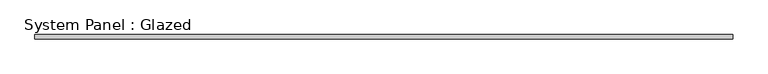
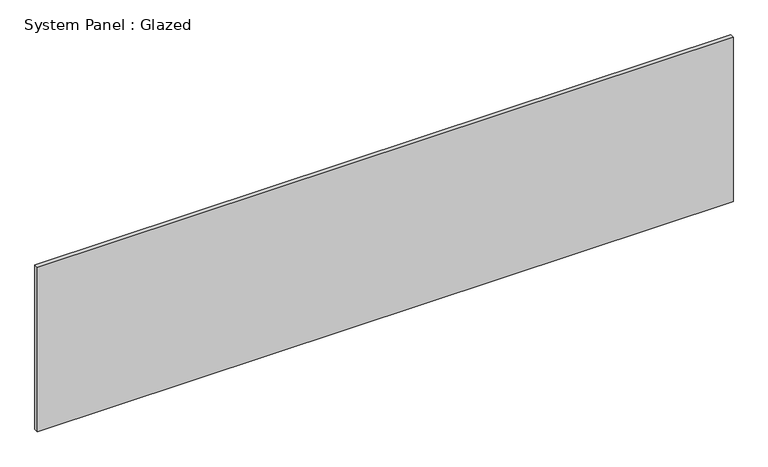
"""IFC4 building model written with IfcOpenShell, lengths in millimetres: plate geometry, System Panel : Glazed."""

import ifcopenshell
import ifcopenshell.guid

model = None  # the IFC model being written
_history = None  # IfcOwnerHistory: only IFC2X3 demands one
_inside = {}  # id of a spatial element -> (the spatial element, [elements in it])
_under = {}  # id of a project, library or spatial element -> (it, [spatial elements below it])
_declared = {}  # id of a project -> (the project, [libraries it declares])
_typed = {}  # id of a type object -> (the type object, [elements of that type])
_made_of = {}  # id of a material, layer set ... -> (it, [elements and type objects made of it])


def new_model(schema):
    """Start an empty IFC model of exactly this schema.

    Asked for "IFC4X3", IfcOpenShell would pick the latest addendum, in which some entities
    have other attributes; the version numbers below select the first issue.
    IFC2X3 requires an IfcOwnerHistory on every rooted entity: one is made here for all.
    """
    global model, _history
    if schema == "IFC4X3":
        model = ifcopenshell.file(schema_version=(4, 3, 0, 0))
    else:
        model = ifcopenshell.file(schema=schema)
    _inside.clear()
    _under.clear()
    _declared.clear()
    _typed.clear()
    _made_of.clear()
    _history = None
    if model.schema == "IFC2X3":
        org = make("IfcOrganization", Name="unknown")
        user = make(
            "IfcPersonAndOrganization",
            ThePerson=make("IfcPerson", FamilyName="unknown"),
            TheOrganization=org,
        )
        app = make(
            "IfcApplication",
            ApplicationDeveloper=org,
            Version="unknown",
            ApplicationFullName="unknown",
            ApplicationIdentifier="unknown",
        )
        _history = make(
            "IfcOwnerHistory",
            OwningUser=user,
            OwningApplication=app,
            ChangeAction="ADDED",
            CreationDate=0,
        )
    return model


def make(cls, **values):
    """One entity of the class cls with the attributes given. An attribute that is None is left unset."""
    return model.create_entity(
        cls, **{name: value for name, value in values.items() if value is not None}
    )


def rooted(cls, **values):
    """An entity with a GlobalId (a new one), such as an element, a storey or a relation."""
    return make(cls, GlobalId=ifcopenshell.guid.new(), OwnerHistory=_history, **values)


def si_unit(unit_type, name, prefix=None):
    """IfcSIUnit, for example si_unit("LENGTHUNIT", "METRE", prefix="MILLI")."""
    return make("IfcSIUnit", UnitType=unit_type, Prefix=prefix, Name=name)


def assignment(units):
    """IfcUnitAssignment: the units of a project."""
    return None if units is None else make("IfcUnitAssignment", Units=units)


def point(xyz):
    """IfcCartesianPoint."""
    return None if xyz is None else make("IfcCartesianPoint", Coordinates=xyz)


def direction(xyz):
    """IfcDirection."""
    return None if xyz is None else make("IfcDirection", DirectionRatios=xyz)


def frame(location, z_axis=None, x_axis=None):
    """IfcAxis2Placement3D, a coordinate frame: its origin and axes. An axis left out is left unset."""
    return make(
        "IfcAxis2Placement3D",
        Location=point(location),
        Axis=direction(z_axis),
        RefDirection=direction(x_axis),
    )


def origin():
    """The frame at (0, 0, 0) with its axes left unset."""
    return frame((0.0, 0.0, 0.0))


def origin_with_axes():
    """The frame at (0, 0, 0) with the z axis (0, 0, 1) and the x axis (1, 0, 0) written out."""
    return frame((0.0, 0.0, 0.0), z_axis=(0.0, 0.0, 1.0), x_axis=(1.0, 0.0, 0.0))


def place(relative_to, where):
    """IfcLocalPlacement: puts the frame where relative to a parent placement (None: the world)."""
    return make(
        "IfcLocalPlacement", PlacementRelTo=relative_to, RelativePlacement=where
    )


def context(
    kind, dimensions, precision=None, world=None, true_north=None, identifier=None
):
    """IfcGeometricRepresentationContext, for example the 3D "Model" context."""
    return make(
        "IfcGeometricRepresentationContext",
        ContextIdentifier=identifier,
        ContextType=kind,
        CoordinateSpaceDimension=dimensions,
        Precision=precision,
        WorldCoordinateSystem=world,
        TrueNorth=true_north,
    )


def project(units=None, contexts=None):
    """IfcProject with its units and contexts."""
    return rooted(
        "IfcProject",
        Name="project",
        RepresentationContexts=contexts,
        UnitsInContext=assignment(units),
    )


def spatial(cls, under=None, at=None, **own):
    """A site, building, storey or space (cls), placed at a placement, below another one or the project."""
    s = rooted(cls, ObjectPlacement=at, **own)
    if under is not None:
        _under.setdefault(under.id(), (under, []))[1].append(s)
    return s


def polyline(points):
    """IfcPolyline through the points."""
    return make("IfcPolyline", Points=[point(p) for p in points])


def outline(outer, holes=None, kind="AREA"):
    """IfcArbitraryClosedProfileDef: a profile drawn as a closed curve; with holes, ...WithVoids."""
    if holes is None:
        return make("IfcArbitraryClosedProfileDef", ProfileType=kind, OuterCurve=outer)
    return make(
        "IfcArbitraryProfileDefWithVoids",
        ProfileType=kind,
        OuterCurve=outer,
        InnerCurves=holes,
    )


def extrude(swept, where, along, depth):
    """IfcExtrudedAreaSolid: the profile swept, set in the frame where, extruded along a direction by depth."""
    return make(
        "IfcExtrudedAreaSolid",
        SweptArea=swept,
        Position=where,
        ExtrudedDirection=direction(along),
        Depth=depth,
    )


def shape(context_of_items, identifier, shape_type, items):
    """IfcShapeRepresentation: the items that make up one representation, for example the "Body"."""
    return make(
        "IfcShapeRepresentation",
        ContextOfItems=context_of_items,
        RepresentationIdentifier=identifier,
        RepresentationType=shape_type,
        Items=items,
    )


def source(mapping_origin, context_of_items, identifier, shape_type, items):
    """IfcRepresentationMap: a shape defined once, which mapped items show again and again."""
    return make(
        "IfcRepresentationMap",
        MappingOrigin=mapping_origin,
        MappedRepresentation=shape(context_of_items, identifier, shape_type, items),
    )


def transform(
    local_origin,
    x_axis=None,
    y_axis=None,
    z_axis=None,
    scale=None,
    scale2=None,
    scale3=None,
    uniform=True,
):
    """IfcCartesianTransformationOperator3D, or its non-uniform kind. x_axis, y_axis, z_axis: its Axis1, 2, 3."""
    if uniform:
        return make(
            "IfcCartesianTransformationOperator3D",
            Axis1=direction(x_axis),
            Axis2=direction(y_axis),
            LocalOrigin=point(local_origin),
            Scale=scale,
            Axis3=direction(z_axis),
        )
    return make(
        "IfcCartesianTransformationOperator3DnonUniform",
        Axis1=direction(x_axis),
        Axis2=direction(y_axis),
        LocalOrigin=point(local_origin),
        Scale=scale,
        Axis3=direction(z_axis),
        Scale2=scale2,
        Scale3=scale3,
    )


def mapped(mapping_source, mapping_target):
    """IfcMappedItem: shows the shape of a source again, moved by a transform."""
    return make(
        "IfcMappedItem", MappingSource=mapping_source, MappingTarget=mapping_target
    )


def made_of(thing, what):
    """Note that an element or type object is made of a material, layer set ...; save() writes the relation."""
    if what is not None:
        _made_of.setdefault(what.id(), (what, []))[1].append(thing)
    return thing


def element(
    cls,
    number,
    at=None,
    inside=None,
    cuts=None,
    type_object=None,
    material=None,
    context=None,
    identifier="Body",
    shape_type=None,
    held_by="IfcProductDefinitionShape",
    body=None,
    shapes=None,
    **own,
):
    """One element of the class cls, such as IfcWall. Its Tag is "e" and its number.

    at: its placement. inside: the storey or other place that contains it. cuts: it is an
    opening in that element (IfcRelVoidsElement). A single representation is given by context,
    identifier, shape_type and body (its items); several are given by shapes. held_by: the class
    of the entity that holds the representations. save() writes the other relations.
    """
    e = rooted(cls, Tag="e%d" % number, ObjectPlacement=at, **own)
    if body is not None:
        shapes = [shape(context, identifier, shape_type, body)]
    if shapes is not None:
        e.Representation = make(held_by, Representations=shapes)
    if inside is not None:
        _inside.setdefault(inside.id(), (inside, []))[1].append(e)
    if cuts is not None:
        rooted(
            "IfcRelVoidsElement", RelatingBuildingElement=cuts, RelatedOpeningElement=e
        )
    if type_object is not None:
        _typed.setdefault(type_object.id(), (type_object, []))[1].append(e)
    return made_of(e, material)


def aggregate(whole, parts):
    """IfcRelAggregates: a whole, such as a stair, and the parts it consists of."""
    return rooted("IfcRelAggregates", RelatingObject=whole, RelatedObjects=parts)


def save(model, path):
    """Write the relations noted so far, then the file.

    IfcRelAggregates (storeys below a building ...), IfcRelContainedInSpatialStructure (elements
    in a storey), IfcRelDefinesByType, IfcRelAssociatesMaterial and IfcRelDeclares: one each for
    every whole, place, type object, material and project.
    """
    for whole, parts in _under.values():
        aggregate(whole, parts)
    for where, things in _inside.values():
        rooted(
            "IfcRelContainedInSpatialStructure",
            RelatedElements=things,
            RelatingStructure=where,
        )
    for kind, things in _typed.values():
        rooted("IfcRelDefinesByType", RelatedObjects=things, RelatingType=kind)
    for what, things in _made_of.values():
        rooted("IfcRelAssociatesMaterial", RelatedObjects=things, RelatingMaterial=what)
    for by, libraries in _declared.values():
        rooted("IfcRelDeclares", RelatingContext=by, RelatedDefinitions=libraries)
    model.write(path)


def system_panel_glazed_bb07d536(model_context):
    return source(origin(), model_context, "Body", "SweptSolid", [
        extrude(outline(polyline([(2000.0, 24.5), (-2000.0, 24.5), (-2000.0, 49.5), (2000.0, 49.5), (2000.0, 24.5)])), origin_with_axes(), (0.0, 0.0, 1.0), 1000.0),
    ])


if __name__ == "__main__":
    model = new_model("IFC4")
    model_context = context("Model", 3, world=origin())
    ifc_project = project(units=[si_unit("LENGTHUNIT", "METRE", prefix="MILLI")], contexts=[model_context])
    site = spatial("IfcSite", under=ifc_project)
    building = spatial("IfcBuilding", under=site)
    placement = place(None, origin())
    system_panel_glazed_shape = system_panel_glazed_bb07d536(model_context)
    element("IfcPlate", 1, ObjectType="System Panel : Glazed", at=placement, inside=building, context=model_context, shape_type="MappedRepresentation", body=[
        mapped(system_panel_glazed_shape, transform((0.0, 0.0, 0.0), x_axis=(1.0, 0.0, 0.0), y_axis=(0.0, 1.0, 0.0), z_axis=(0.0, 0.0, 1.0))),
    ])
    save(model, "model.ifc")
